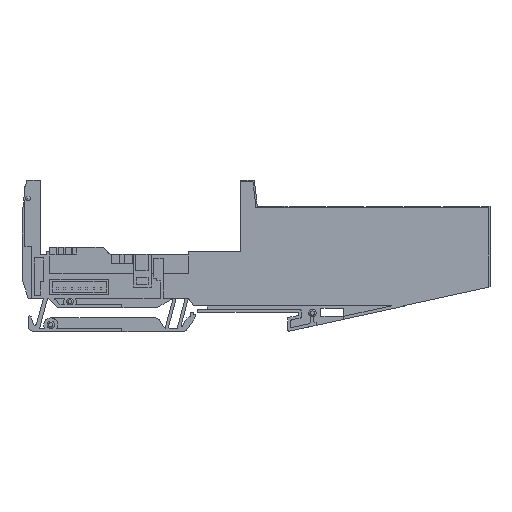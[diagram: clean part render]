
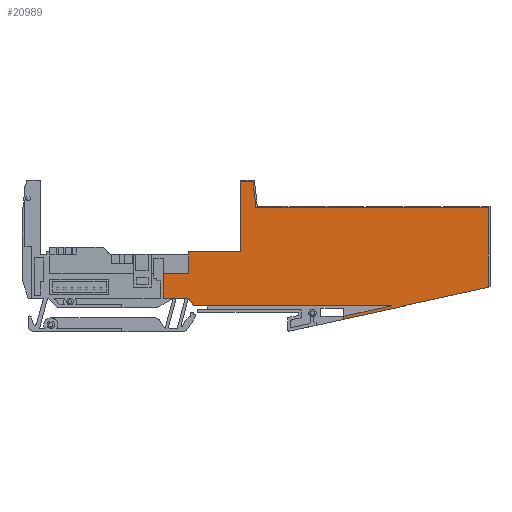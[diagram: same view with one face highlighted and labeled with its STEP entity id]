
A CAD part, left-side view. The second image highlights one B-rep face of the part: STEP entity #20989.
In plain terms, the highlighted planar face has unit normal (-1, 0, 0).
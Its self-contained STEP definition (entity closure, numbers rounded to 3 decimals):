
#573=CARTESIAN_POINT('',(-11.2,-128.438,14.649));
#574=VERTEX_POINT('',#573);
#581=CARTESIAN_POINT('',(-11.2,-100.238,8.5));
#582=VERTEX_POINT('',#581);
#583=CARTESIAN_POINT('',(-11.2,-100.238,8.5));
#584=DIRECTION('',(0.0,-0.977,0.213));
#585=VECTOR('',#584,28.863);
#586=LINE('',#583,#585);
#587=EDGE_CURVE('',#582,#574,#586,.T.);
#10922=CARTESIAN_POINT('',(-11.2,-46.638,49.4));
#10923=VERTEX_POINT('',#10922);
#10930=CARTESIAN_POINT('',(-11.2,-50.694,49.4));
#10931=VERTEX_POINT('',#10930);
#10932=CARTESIAN_POINT('',(-11.2,-50.694,49.4));
#10933=DIRECTION('',(0.0,1.0,0.0));
#10934=VECTOR('',#10933,4.055);
#10935=LINE('',#10932,#10934);
#10936=EDGE_CURVE('',#10931,#10923,#10935,.T.);
#10962=CARTESIAN_POINT('',(-11.2,-51.638,41.371));
#10963=VERTEX_POINT('',#10962);
#10970=CARTESIAN_POINT('',(-11.2,-51.638,40.9));
#10971=VERTEX_POINT('',#10970);
#10972=CARTESIAN_POINT('',(-11.2,-51.638,40.9));
#10973=DIRECTION('',(0.0,0.0,1.0));
#10974=VECTOR('',#10973,0.471);
#10975=LINE('',#10972,#10974);
#10976=EDGE_CURVE('',#10971,#10963,#10975,.T.);
#10999=CARTESIAN_POINT('',(-11.2,-51.638,41.371));
#11000=DIRECTION('',(0.0,0.117,0.993));
#11001=VECTOR('',#11000,8.085);
#11002=LINE('',#10999,#11001);
#11003=EDGE_CURVE('',#10963,#10931,#11002,.T.);
#11039=CARTESIAN_POINT('',(-11.2,-46.638,26.3));
#11040=VERTEX_POINT('',#11039);
#11047=CARTESIAN_POINT('',(-11.2,-46.638,49.4));
#11048=DIRECTION('',(0.0,0.0,-1.0));
#11049=VECTOR('',#11048,23.1);
#11050=LINE('',#11047,#11049);
#11051=EDGE_CURVE('',#10923,#11040,#11050,.T.);
#11356=CARTESIAN_POINT('',(-11.2,-128.438,40.9));
#11357=VERTEX_POINT('',#11356);
#11364=CARTESIAN_POINT('',(-11.2,-128.438,14.649));
#11365=DIRECTION('',(0.0,0.0,1.0));
#11366=VECTOR('',#11365,26.251);
#11367=LINE('',#11364,#11366);
#11368=EDGE_CURVE('',#574,#11357,#11367,.T.);
#11409=CARTESIAN_POINT('',(-11.2,-128.438,40.9));
#11410=DIRECTION('',(0.0,1.0,0.0));
#11411=VECTOR('',#11410,76.8);
#11412=LINE('',#11409,#11411);
#11413=EDGE_CURVE('',#11357,#10971,#11412,.T.);
#15709=CARTESIAN_POINT('',(-11.2,-29.338,26.3));
#15710=VERTEX_POINT('',#15709);
#15717=CARTESIAN_POINT('',(-11.2,-46.638,26.3));
#15718=DIRECTION('',(0.0,1.0,0.0));
#15719=VECTOR('',#15718,17.3);
#15720=LINE('',#15717,#15719);
#15721=EDGE_CURVE('',#11040,#15710,#15720,.T.);
#16309=CARTESIAN_POINT('',(-11.2,-29.338,19.2));
#16310=VERTEX_POINT('',#16309);
#16317=CARTESIAN_POINT('',(-11.2,-29.338,26.3));
#16318=DIRECTION('',(0.0,0.0,-1.0));
#16319=VECTOR('',#16318,7.1);
#16320=LINE('',#16317,#16319);
#16321=EDGE_CURVE('',#15710,#16310,#16320,.T.);
#20073=CARTESIAN_POINT('',(-11.2,-80.623,4.029));
#20074=VERTEX_POINT('',#20073);
#20081=CARTESIAN_POINT('',(-11.2,-80.623,5.052));
#20082=VERTEX_POINT('',#20081);
#20083=CARTESIAN_POINT('',(-11.2,-80.623,5.052));
#20084=DIRECTION('',(0.0,0.0,-1.0));
#20085=VECTOR('',#20084,1.023);
#20086=LINE('',#20083,#20085);
#20087=EDGE_CURVE('',#20082,#20074,#20086,.T.);
#20105=CARTESIAN_POINT('',(-11.2,-96.442,8.5));
#20106=VERTEX_POINT('',#20105);
#20107=CARTESIAN_POINT('',(-11.2,-96.442,8.5));
#20108=DIRECTION('',(0.0,0.977,-0.213));
#20109=VECTOR('',#20108,16.191);
#20110=LINE('',#20107,#20109);
#20111=EDGE_CURVE('',#20106,#20082,#20110,.T.);
#20151=CARTESIAN_POINT('',(-11.2,-21.038,11.));
#20152=VERTEX_POINT('',#20151);
#20159=CARTESIAN_POINT('',(-11.2,-21.038,19.2));
#20160=VERTEX_POINT('',#20159);
#20161=CARTESIAN_POINT('',(-11.2,-21.038,19.2));
#20162=DIRECTION('',(0.0,0.0,-1.0));
#20163=VECTOR('',#20162,8.2);
#20164=LINE('',#20161,#20163);
#20165=EDGE_CURVE('',#20160,#20152,#20164,.T.);
#20928=CARTESIAN_POINT('',(-11.2,-24.387,13.96));
#20929=DIRECTION('',(1.0,0.0,0.0));
#20930=DIRECTION('',(0.0,1.0,0.0));
#20931=AXIS2_PLACEMENT_3D('',#20928,#20929,#20930);
#20932=PLANE('',#20931);
#20933=ORIENTED_EDGE('',*,*,#20087,.T.);
#20934=CARTESIAN_POINT('',(-11.2,-101.138,8.5));
#20935=VERTEX_POINT('',#20934);
#20936=CARTESIAN_POINT('',(-11.2,-80.623,4.029));
#20937=DIRECTION('',(0.0,-0.977,0.213));
#20938=VECTOR('',#20937,20.997);
#20939=LINE('',#20936,#20938);
#20940=EDGE_CURVE('',#20074,#20935,#20939,.T.);
#20941=ORIENTED_EDGE('',*,*,#20940,.T.);
#20942=CARTESIAN_POINT('',(-11.2,-101.138,8.5));
#20943=DIRECTION('',(0.0,1.0,0.0));
#20944=VECTOR('',#20943,0.9);
#20945=LINE('',#20942,#20944);
#20946=EDGE_CURVE('',#20935,#582,#20945,.T.);
#20947=ORIENTED_EDGE('',*,*,#20946,.T.);
#20948=ORIENTED_EDGE('',*,*,#587,.T.);
#20949=ORIENTED_EDGE('',*,*,#11368,.T.);
#20950=ORIENTED_EDGE('',*,*,#11413,.T.);
#20951=ORIENTED_EDGE('',*,*,#10976,.T.);
#20952=ORIENTED_EDGE('',*,*,#11003,.T.);
#20953=ORIENTED_EDGE('',*,*,#10936,.T.);
#20954=ORIENTED_EDGE('',*,*,#11051,.T.);
#20955=ORIENTED_EDGE('',*,*,#15721,.T.);
#20956=ORIENTED_EDGE('',*,*,#16321,.T.);
#20957=CARTESIAN_POINT('',(-11.2,-29.338,19.2));
#20958=DIRECTION('',(0.0,1.0,0.0));
#20959=VECTOR('',#20958,8.3);
#20960=LINE('',#20957,#20959);
#20961=EDGE_CURVE('',#16310,#20160,#20960,.T.);
#20962=ORIENTED_EDGE('',*,*,#20961,.T.);
#20963=ORIENTED_EDGE('',*,*,#20165,.T.);
#20964=CARTESIAN_POINT('',(-11.2,-29.338,11.));
#20965=VERTEX_POINT('',#20964);
#20966=CARTESIAN_POINT('',(-11.2,-21.038,11.));
#20967=DIRECTION('',(0.0,-1.0,0.0));
#20968=VECTOR('',#20967,8.3);
#20969=LINE('',#20966,#20968);
#20970=EDGE_CURVE('',#20152,#20965,#20969,.T.);
#20971=ORIENTED_EDGE('',*,*,#20970,.T.);
#20972=CARTESIAN_POINT('',(-11.2,-31.062,8.5));
#20973=VERTEX_POINT('',#20972);
#20974=CARTESIAN_POINT('',(-11.2,-29.338,11.));
#20975=DIRECTION('',(0.0,-0.568,-0.823));
#20976=VECTOR('',#20975,3.036);
#20977=LINE('',#20974,#20976);
#20978=EDGE_CURVE('',#20965,#20973,#20977,.T.);
#20979=ORIENTED_EDGE('',*,*,#20978,.T.);
#20980=CARTESIAN_POINT('',(-11.2,-31.062,8.5));
#20981=DIRECTION('',(0.0,-1.0,0.0));
#20982=VECTOR('',#20981,65.381);
#20983=LINE('',#20980,#20982);
#20984=EDGE_CURVE('',#20973,#20106,#20983,.T.);
#20985=ORIENTED_EDGE('',*,*,#20984,.T.);
#20986=ORIENTED_EDGE('',*,*,#20111,.T.);
#20987=EDGE_LOOP('',(#20933,#20941,#20947,#20948,#20949,#20950,#20951,#20952,#20953,#20954,#20955,#20956,#20962,#20963,#20971,#20979,#20985,#20986));
#20988=FACE_OUTER_BOUND('',#20987,.T.);
#20989=ADVANCED_FACE('',(#20988),#20932,.F.);
